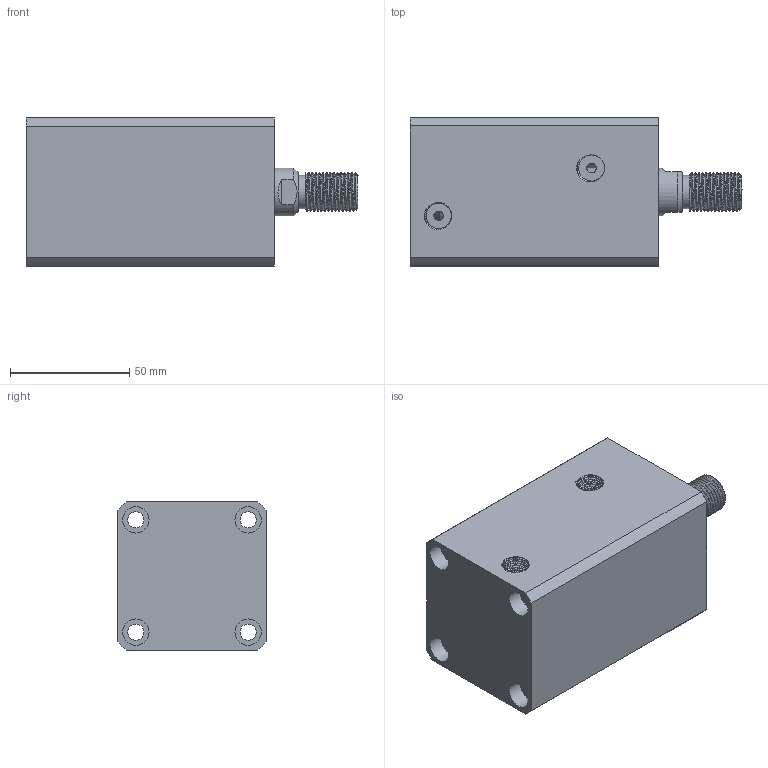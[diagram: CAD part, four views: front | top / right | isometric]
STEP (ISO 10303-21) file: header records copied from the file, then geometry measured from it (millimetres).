
FILE_DESCRIPTION(/* description */ (''),/* implementation_level */ '2;1');
FILE_NAME(/* name */ 'CHTB-sd32x50w.stp',/* time_stamp */ '2022-04-29T17:06:42+08:00',/* author */ (''),/* organization */ (''),/* preprocessor_version */ 'ST-DEVELOPER v16.7',/* originating_system */ 'SIEMENS PLM Software NX 12.0',/* authorisation */ '');
FILE_SCHEMA (('AUTOMOTIVE_DESIGN { 1 0 10303 214 3 1 1 1 }'));
Length unit declared in the file: millimetre
Products named in the file (1): CHTB-sd32x50w
Bounding box: 139 x 62 x 62 mm (x, y, z)
Volume: 357930.1 mm3; surface area: 74027.8 mm2
Topology: 3 solids, 3 shells, 503 faces, 1382 edges, 928 vertices
Faces by surface type: plane 276, extrusion 95, cylinder 61, bspline 42, cone 17, torus 12
Full cylindrical faces by diameter (mm): 3 x2, 4 x2, 6.8 x4, 11 x17, 14 x1, 20 x2, 24.5 x1, 26 x2, 32 x4, 36 x6, 40 x1
Entity records: 30311 total; most frequent: CARTESIAN_POINT 16982, ORIENTED_EDGE 2460, DIRECTION 1706, EDGE_CURVE 1230, VECTOR 856, VERTEX_POINT 854, LINE 761, EDGE_LOOP 582
